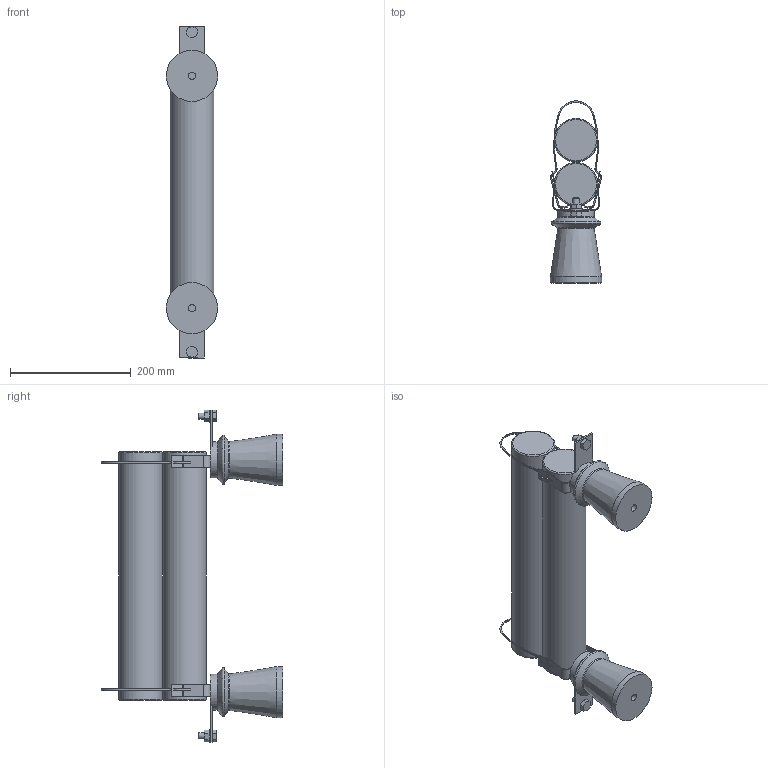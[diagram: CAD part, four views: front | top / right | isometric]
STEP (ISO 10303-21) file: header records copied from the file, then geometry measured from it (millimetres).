
FILE_DESCRIPTION (( 'STEP AP214' ), '1' );
FILE_NAME ('Ïðåäîõðàíèòåëü ÏÊÒ-103-10 Ó3.STEP', '2023-03-06T11:19:10', ( '' ), ( '' ), 'SwSTEP 2.0', 'SolidWorks 2018', '' );
FILE_SCHEMA (( 'AUTOMOTIVE_DESIGN' ));
Length unit declared in the file: millimetre
Products named in the file (1): Ïðåäîõðàíèòåëü ÏÊÒ-103-10 Ó3
Bounding box: 85 x 300.89 x 550 mm (x, y, z)
Volume: 4381484.9 mm3; surface area: 308613.4 mm2
Topology: 1 solids, 1 shells, 230 faces, 646 edges, 424 vertices
Faces by surface type: plane 146, cylinder 64, torus 12, cone 8
Full cylindrical faces by diameter (mm): 10 x2, 12 x2, 20 x2, 60 x2, 72 x2, 85 x2
Entity records: 7084 total; most frequent: DIRECTION 1220, CARTESIAN_POINT 1217, ORIENTED_EDGE 1172, EDGE_CURVE 586, VECTOR 414, LINE 414, AXIS2_PLACEMENT_3D 403, VERTEX_POINT 400
